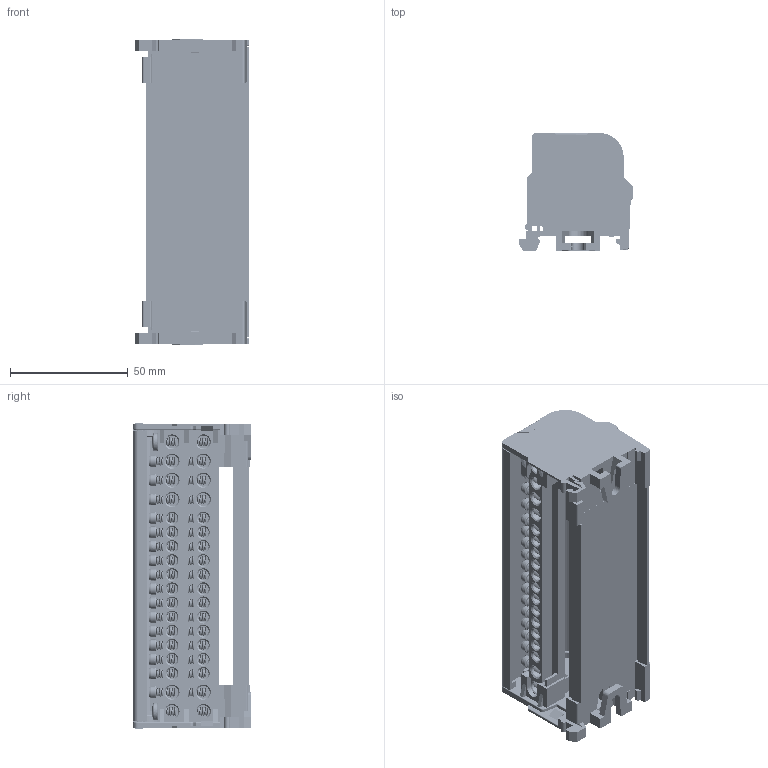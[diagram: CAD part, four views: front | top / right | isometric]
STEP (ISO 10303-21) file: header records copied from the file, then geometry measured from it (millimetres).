
FILE_DESCRIPTION(/* description */ (''),/* implementation_level */ '2;1');
FILE_NAME(/* name */ '2021.4.22.stp',/* time_stamp */ '2021-04-22T12:55:48+08:00',/* author */ (''),/* organization */ (''),/* preprocessor_version */ 'ST-DEVELOPER v16',/* originating_system */ 'SIEMENS PLM Software NX 10.0',/* authorisation */ '');
FILE_SCHEMA (('AUTOMOTIVE_DESIGN { 1 0 10303 214 3 1 1 1 }'));
Products named in the file (1): Admi43286BEBy2ql
Bounding box: 48.7 x 49.8 x 129.7 mm (x, y, z)
Volume: 55086.7 mm3; surface area: 76047.2 mm2
Topology: 44 solids, 44 shells, 1909 faces, 5074 edges, 3282 vertices
Faces by surface type: plane 1173, cylinder 306, cone 136, torus 120, bspline 108, sphere 34, extrusion 32
Full cylindrical faces by diameter (mm): 3.3 x36, 4.5 x24, 5 x32, 5.2 x4, 5.4 x12, 7.6 x4
Entity records: 140120 total; most frequent: CARTESIAN_POINT 95233, ORIENTED_EDGE 9412, DIRECTION 8302, EDGE_CURVE 4706, VERTEX_POINT 3160, VECTOR 2940, LINE 2908, AXIS2_PLACEMENT_3D 2681
